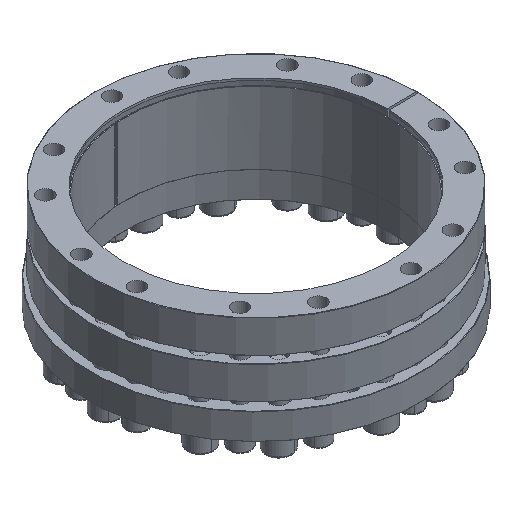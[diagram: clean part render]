
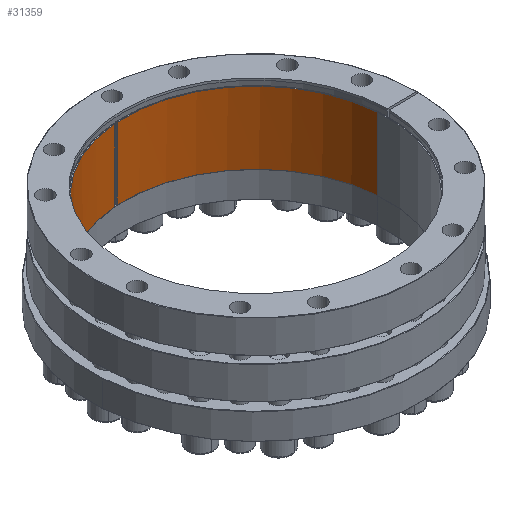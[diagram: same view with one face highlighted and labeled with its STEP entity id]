
A CAD part, isometric view. The second image highlights one B-rep face of the part: STEP entity #31359.
In plain terms, the highlighted cylindrical face has radius 180 mm (diameter 360 mm), a partial arc.
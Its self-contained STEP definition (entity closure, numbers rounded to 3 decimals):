
#779 = EDGE_CURVE ( 'NONE', #2840, #7177, #26014, .T. ) ;
#2529 = EDGE_CURVE ( 'NONE', #21393, #12719, #17335, .T. ) ;
#2563 = VERTEX_POINT ( 'NONE', #17949 ) ;
#2840 = VERTEX_POINT ( 'NONE', #42118 ) ;
#3226 = LINE ( 'NONE', #9102, #19503 ) ;
#3261 = FACE_OUTER_BOUND ( 'NONE', #22410, .T. ) ;
#3607 = CARTESIAN_POINT ( 'NONE',  ( -179.554, -12.668, -108.005 ) ) ;
#4582 = CARTESIAN_POINT ( 'NONE',  ( -179.554, -12.668, -9.005 ) ) ;
#4868 = VERTEX_POINT ( 'NONE', #22137 ) ;
#5443 = CARTESIAN_POINT ( 'NONE',  ( -179.554, -12.668, -9.005 ) ) ;
#5786 = ORIENTED_EDGE ( 'NONE', *, *, #2529, .T. ) ;
#7177 = VERTEX_POINT ( 'NONE', #24022 ) ;
#7616 = AXIS2_PLACEMENT_3D ( 'NONE', #18789, #41536, #22060 ) ;
#7831 = EDGE_CURVE ( 'NONE', #4868, #2840, #15127, .T. ) ;
#7964 = AXIS2_PLACEMENT_3D ( 'NONE', #34945, #15521, #38220 ) ;
#7983 = DIRECTION ( 'NONE',  ( 0., 0., 1. ) ) ;
#9102 = CARTESIAN_POINT ( 'NONE',  ( -14.413, 179.422, -9.005 ) ) ;
#9483 = DIRECTION ( 'NONE',  ( 0., 0., 1. ) ) ;
#9632 = CARTESIAN_POINT ( 'NONE',  ( 179.554, 12.668, -9.005 ) ) ;
#11654 = ORIENTED_EDGE ( 'NONE', *, *, #20425, .T. ) ;
#12189 = CARTESIAN_POINT ( 'NONE',  ( 0., 0., -107.505 ) ) ;
#12719 = VERTEX_POINT ( 'NONE', #4582 ) ;
#14734 = VERTEX_POINT ( 'NONE', #18933 ) ;
#15127 = LINE ( 'NONE', #16004, #23776 ) ;
#15450 = DIRECTION ( 'NONE',  ( -0.998, -0.07, 0. ) ) ;
#15464 = CYLINDRICAL_SURFACE ( 'NONE', #35174, 180. ) ;
#15521 = DIRECTION ( 'NONE',  ( 0., 0., 1. ) ) ;
#16004 = CARTESIAN_POINT ( 'NONE',  ( -10.922, 179.668, -9.005 ) ) ;
#16256 = VERTEX_POINT ( 'NONE', #3607 ) ;
#16803 = CIRCLE ( 'NONE', #7964, 180. ) ;
#17335 = CIRCLE ( 'NONE', #26868, 180. ) ;
#17949 = CARTESIAN_POINT ( 'NONE',  ( 179.554, 12.668, -108.005 ) ) ;
#18120 = EDGE_CURVE ( 'NONE', #2563, #16256, #38111, .T. ) ;
#18418 = DIRECTION ( 'NONE',  ( 0., 0., 1. ) ) ;
#18789 = CARTESIAN_POINT ( 'NONE',  ( 0., 0., -108.005 ) ) ;
#18933 = CARTESIAN_POINT ( 'NONE',  ( 179.554, 12.668, -9.005 ) ) ;
#19503 = VECTOR ( 'NONE', #25148, 1000. ) ;
#20425 = EDGE_CURVE ( 'NONE', #2563, #14734, #38015, .T. ) ;
#21393 = VERTEX_POINT ( 'NONE', #37194 ) ;
#22060 = DIRECTION ( 'NONE',  ( 0.998, 0.07, 0. ) ) ;
#22137 = CARTESIAN_POINT ( 'NONE',  ( -10.922, 179.668, -9.005 ) ) ;
#22410 = EDGE_LOOP ( 'NONE', ( #36309, #31207, #11654, #35817, #25503, #42261, #27427, #5786 ) ) ;
#23447 = LINE ( 'NONE', #5443, #40723 ) ;
#23776 = VECTOR ( 'NONE', #35461, 1000. ) ;
#24022 = CARTESIAN_POINT ( 'NONE',  ( -14.413, 179.422, -107.505 ) ) ;
#24086 = AXIS2_PLACEMENT_3D ( 'NONE', #12189, #34887, #15450 ) ;
#25148 = DIRECTION ( 'NONE',  ( 0., 0., 1. ) ) ;
#25503 = ORIENTED_EDGE ( 'NONE', *, *, #7831, .T. ) ;
#26014 = CIRCLE ( 'NONE', #24086, 180. ) ;
#26868 = AXIS2_PLACEMENT_3D ( 'NONE', #27478, #7983, #30714 ) ;
#27427 = ORIENTED_EDGE ( 'NONE', *, *, #40327, .T. ) ;
#27478 = CARTESIAN_POINT ( 'NONE',  ( 0., 0., -9.005 ) ) ;
#28072 = CARTESIAN_POINT ( 'NONE',  ( 0., 0., -9.005 ) ) ;
#28146 = DIRECTION ( 'NONE',  ( 0., 0., 1. ) ) ;
#30714 = DIRECTION ( 'NONE',  ( 0.998, 0.07, 0. ) ) ;
#31207 = ORIENTED_EDGE ( 'NONE', *, *, #18120, .F. ) ;
#31359 = ADVANCED_FACE ( 'NONE', ( #3261 ), #15464, .F. ) ;
#31485 = DIRECTION ( 'NONE',  ( 0.998, 0.07, 0. ) ) ;
#33967 = EDGE_CURVE ( 'NONE', #16256, #12719, #23447, .T. ) ;
#34887 = DIRECTION ( 'NONE',  ( 0., 0., 1. ) ) ;
#34945 = CARTESIAN_POINT ( 'NONE',  ( 0., 0., -9.005 ) ) ;
#35174 = AXIS2_PLACEMENT_3D ( 'NONE', #28072, #18418, #31485 ) ;
#35461 = DIRECTION ( 'NONE',  ( 0., 0., -1. ) ) ;
#35817 = ORIENTED_EDGE ( 'NONE', *, *, #38147, .T. ) ;
#36309 = ORIENTED_EDGE ( 'NONE', *, *, #33967, .F. ) ;
#37011 = VECTOR ( 'NONE', #9483, 1000. ) ;
#37194 = CARTESIAN_POINT ( 'NONE',  ( -14.413, 179.422, -9.005 ) ) ;
#38015 = LINE ( 'NONE', #9632, #37011 ) ;
#38111 = CIRCLE ( 'NONE', #7616, 180. ) ;
#38147 = EDGE_CURVE ( 'NONE', #14734, #4868, #16803, .T. ) ;
#38220 = DIRECTION ( 'NONE',  ( 0.998, 0.07, 0. ) ) ;
#40327 = EDGE_CURVE ( 'NONE', #7177, #21393, #3226, .T. ) ;
#40723 = VECTOR ( 'NONE', #28146, 1000. ) ;
#41536 = DIRECTION ( 'NONE',  ( 0., 0., 1. ) ) ;
#42118 = CARTESIAN_POINT ( 'NONE',  ( -10.922, 179.668, -107.505 ) ) ;
#42261 = ORIENTED_EDGE ( 'NONE', *, *, #779, .T. ) ;
